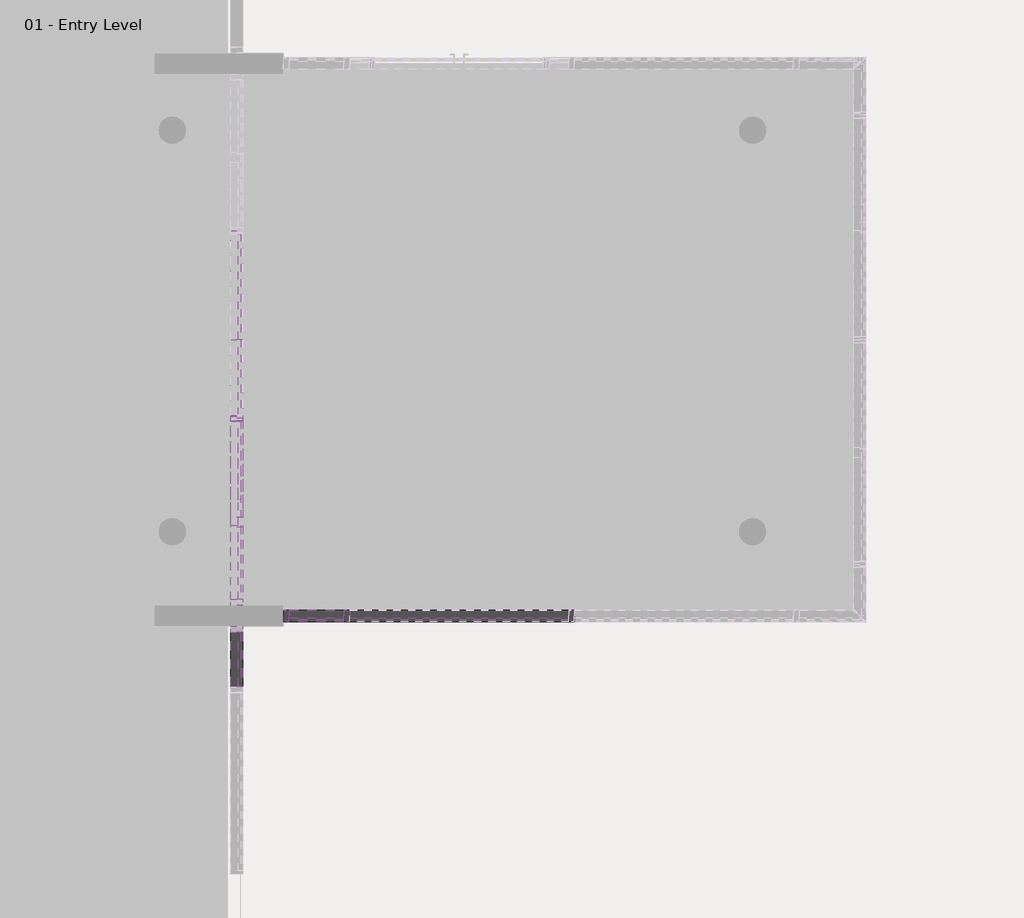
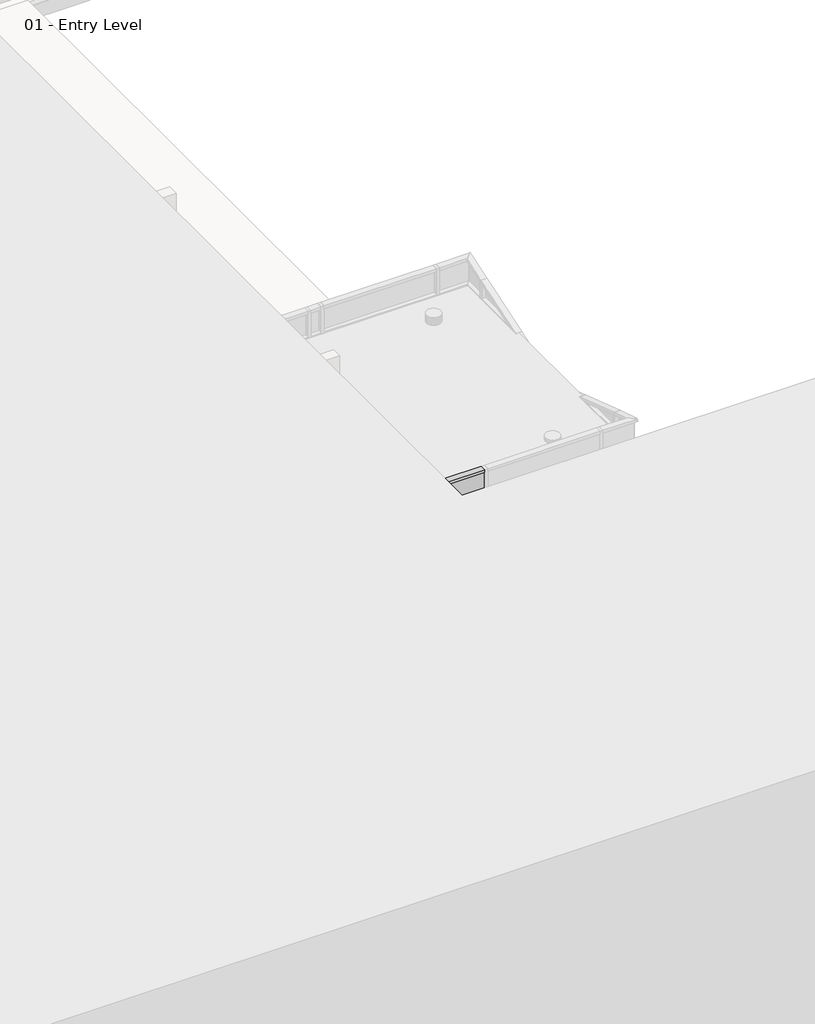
# One storey, part 13 of 35: 83 members, 41 plates.
"""IFC4 building model written with IfcOpenShell, lengths in millimetres."""

from ifc_helpers import new_model, si_unit, origin, place, context, project, spatial, transform, mapped, element, save
from components import member_2b49869a, member_75074519, member_4f18b2ac, member_7a85b04f, member_29dce480, member_6e77e263, member_47bfaf8a, member_b2bde9e6, member_89bfb2f9, member_5aa65f11, member_b5354135, member_fbc627c7, member_27fd6fac, member_2603a644, member_ab5e8816, member_97c9a22f, member_dc06a31d, member_4c11d242, system_panel_glazed_f46199af, system_panel_glazed_1b9d6098, system_panel_glazed_a2373be0, system_panel_glazed_70da479d, system_panel_glazed_99a26212, system_panel_glazed_a675a60c, system_panel_glazed_1068a10c, system_panel_glazed_a178916c, system_panel_glazed_0805a858, system_panel_glazed_439dd39a, system_panel_glazed_10735cc6, system_panel_glazed_6a6e56af, system_panel_glazed_a1864e1b

model = new_model("IFC4")

# Units and contexts
model_context = context("Model", 3, world=origin())
ifc_project = project(units=[si_unit("LENGTHUNIT", "METRE", prefix="MILLI")], contexts=[model_context])

# Site, building, storey
site = spatial("IfcSite", under=ifc_project)
building = spatial("IfcBuilding", under=site)
storey = spatial("IfcBuildingStorey", under=building, Name="01 - Entry Level", Elevation=0.0)

# Members
placement = place(None, origin())
member_shape = member_2b49869a(model_context)
element("IfcMember", 1, ObjectType="Rectangular Mullion : 2.5\" x 5\" rectangular", at=placement, inside=storey, context=model_context, shape_type="MappedRepresentation", body=[
    mapped(member_shape, transform((17184.0207476, 18697.5, 9753.6), x_axis=(0.0, 1.0, 0.0), y_axis=(1.0, 0.0, 0.0), z_axis=(0.0, 0.0, -1.0))),
])
member_2_shape = member_75074519(model_context)
element("IfcMember", 2, ObjectType="Rectangular Mullion : 2.5\" x 5\" rectangular", at=placement, inside=storey, context=model_context, shape_type="MappedRepresentation", body=[
    mapped(member_2_shape, transform((17184.0207476, 16665.5, 10972.8), x_axis=(0.0, -1.0, 0.0), y_axis=(1.0, 0.0, 0.0), z_axis=(0.0, 0.0, 1.0))),
])
element("IfcMember", 3, ObjectType="Rectangular Mullion : 2.5\" x 5\" rectangular", at=placement, inside=storey, context=model_context, shape_type="MappedRepresentation", body=[
    mapped(member_2_shape, transform((17184.0207476, 16436.9, 9753.6), x_axis=(0.0, 1.0, 0.0), y_axis=(1.0, 0.0, 0.0), z_axis=(0.0, 0.0, -1.0))),
])
member_3_shape = member_4f18b2ac(model_context)
element("IfcMember", 4, ObjectType="Rectangular Mullion : 2.5\" x 5\" rectangular", at=placement, inside=storey, context=model_context, shape_type="MappedRepresentation", body=[
    mapped(member_3_shape, transform((17184.0207476, 18665.75, 10972.8), x_axis=(0.0, 0.0, 1.0), y_axis=(1.0, 0.0, 0.0), z_axis=(0.0, 1.0, 0.0))),
])
member_4_shape = member_7a85b04f(model_context)
element("IfcMember", 5, ObjectType="Rectangular Mullion : 2.5\" x 5\" rectangular", at=placement, inside=storey, context=model_context, shape_type="MappedRepresentation", body=[
    mapped(member_4_shape, transform((17184.0207476, 18665.75, 8534.4), x_axis=(0.0, 0.0, 1.0), y_axis=(1.0, 0.0, 0.0), z_axis=(0.0, 1.0, 0.0))),
])
element("IfcMember", 6, ObjectType="Rectangular Mullion : 2.5\" x 5\" rectangular", at=placement, inside=storey, context=model_context, shape_type="MappedRepresentation", body=[
    mapped(member_4_shape, transform((17184.0207476, 18665.75, 9753.6), x_axis=(0.0, 0.0, 1.0), y_axis=(1.0, 0.0, 0.0), z_axis=(0.0, 1.0, 0.0))),
])
element("IfcMember", 7, ObjectType="Rectangular Mullion : 2.5\" x 5\" rectangular", at=placement, inside=storey, context=model_context, shape_type="MappedRepresentation", body=[
    mapped(member_shape, transform((17184.0207476, 18697.5, 7315.2), x_axis=(0.0, 1.0, 0.0), y_axis=(1.0, 0.0, 0.0), z_axis=(0.0, 0.0, -1.0))),
])
element("IfcMember", 8, ObjectType="Rectangular Mullion : 2.5\" x 5\" rectangular", at=placement, inside=storey, context=model_context, shape_type="MappedRepresentation", body=[
    mapped(member_shape, transform((17184.0207476, 18697.5, 8534.4), x_axis=(0.0, 1.0, 0.0), y_axis=(1.0, 0.0, 0.0), z_axis=(0.0, 0.0, -1.0))),
])
element("IfcMember", 9, ObjectType="Rectangular Mullion : 2.5\" x 5\" rectangular", at=placement, inside=storey, context=model_context, shape_type="MappedRepresentation", body=[
    mapped(member_2_shape, transform((17184.0207476, 16436.9, 1219.2), x_axis=(0.0, 1.0, 0.0), y_axis=(1.0, 0.0, 0.0), z_axis=(0.0, 0.0, -1.0))),
])
element("IfcMember", 10, ObjectType="Rectangular Mullion : 2.5\" x 5\" rectangular", at=placement, inside=storey, context=model_context, shape_type="MappedRepresentation", body=[
    mapped(member_2_shape, transform((17184.0207476, 16436.9, 2438.4), x_axis=(0.0, 1.0, 0.0), y_axis=(1.0, 0.0, 0.0), z_axis=(0.0, 0.0, -1.0))),
])
element("IfcMember", 11, ObjectType="Rectangular Mullion : 2.5\" x 5\" rectangular", at=placement, inside=storey, context=model_context, shape_type="MappedRepresentation", body=[
    mapped(member_2_shape, transform((17184.0207476, 16436.9, 3657.6), x_axis=(0.0, 1.0, 0.0), y_axis=(1.0, 0.0, 0.0), z_axis=(0.0, 0.0, -1.0))),
])
element("IfcMember", 12, ObjectType="Rectangular Mullion : 2.5\" x 5\" rectangular", at=placement, inside=storey, context=model_context, shape_type="MappedRepresentation", body=[
    mapped(member_2_shape, transform((17184.0207476, 16436.9, 4876.8), x_axis=(0.0, 1.0, 0.0), y_axis=(1.0, 0.0, 0.0), z_axis=(0.0, 0.0, -1.0))),
])
element("IfcMember", 13, ObjectType="Rectangular Mullion : 2.5\" x 5\" rectangular", at=placement, inside=storey, context=model_context, shape_type="MappedRepresentation", body=[
    mapped(member_2_shape, transform((17184.0207476, 16436.9, 6096.0), x_axis=(0.0, 1.0, 0.0), y_axis=(1.0, 0.0, 0.0), z_axis=(0.0, 0.0, -1.0))),
])
element("IfcMember", 14, ObjectType="Rectangular Mullion : 2.5\" x 5\" rectangular", at=placement, inside=storey, context=model_context, shape_type="MappedRepresentation", body=[
    mapped(member_2_shape, transform((17184.0207476, 16436.9, 7315.2), x_axis=(0.0, 1.0, 0.0), y_axis=(1.0, 0.0, 0.0), z_axis=(0.0, 0.0, -1.0))),
])
element("IfcMember", 15, ObjectType="Rectangular Mullion : 2.5\" x 5\" rectangular", at=placement, inside=storey, context=model_context, shape_type="MappedRepresentation", body=[
    mapped(member_2_shape, transform((17184.0207476, 16436.9, 8534.4), x_axis=(0.0, 1.0, 0.0), y_axis=(1.0, 0.0, 0.0), z_axis=(0.0, 0.0, -1.0))),
])
element("IfcMember", 16, ObjectType="Rectangular Mullion : 2.5\" x 5\" rectangular", at=placement, inside=storey, context=model_context, shape_type="MappedRepresentation", body=[
    mapped(member_2_shape, transform((17184.0207476, 16665.5, 9753.6), x_axis=(0.0, -1.0, 0.0), y_axis=(1.0, 0.0, 0.0), z_axis=(0.0, 0.0, 1.0))),
])
member_5_shape = member_29dce480(model_context)
element("IfcMember", 17, ObjectType="Rectangular Mullion : 2.5\" x 5\" rectangular", at=placement, inside=storey, context=model_context, shape_type="MappedRepresentation", body=[
    mapped(member_5_shape, transform((17184.0207476, 16373.4, 1219.2), x_axis=(0.0, 0.0, 1.0), y_axis=(1.0, 0.0, 0.0), z_axis=(0.0, 1.0, 0.0))),
])
element("IfcMember", 18, ObjectType="Rectangular Mullion : 2.5\" x 5\" rectangular", at=placement, inside=storey, context=model_context, shape_type="MappedRepresentation", body=[
    mapped(member_5_shape, transform((17184.0207476, 16373.4, 2438.4), x_axis=(0.0, 0.0, 1.0), y_axis=(1.0, 0.0, 0.0), z_axis=(0.0, 1.0, 0.0))),
])
element("IfcMember", 19, ObjectType="Rectangular Mullion : 2.5\" x 5\" rectangular", at=placement, inside=storey, context=model_context, shape_type="MappedRepresentation", body=[
    mapped(member_5_shape, transform((17184.0207476, 16373.4, 3657.6), x_axis=(0.0, 0.0, 1.0), y_axis=(1.0, 0.0, 0.0), z_axis=(0.0, 1.0, 0.0))),
])
element("IfcMember", 20, ObjectType="Rectangular Mullion : 2.5\" x 5\" rectangular", at=placement, inside=storey, context=model_context, shape_type="MappedRepresentation", body=[
    mapped(member_5_shape, transform((17184.0207476, 16373.4, 4876.8), x_axis=(0.0, 0.0, 1.0), y_axis=(1.0, 0.0, 0.0), z_axis=(0.0, 1.0, 0.0))),
])
element("IfcMember", 21, ObjectType="Rectangular Mullion : 2.5\" x 5\" rectangular", at=placement, inside=storey, context=model_context, shape_type="MappedRepresentation", body=[
    mapped(member_5_shape, transform((17184.0207476, 16373.4, 6096.0), x_axis=(0.0, 0.0, 1.0), y_axis=(1.0, 0.0, 0.0), z_axis=(0.0, 1.0, 0.0))),
])
element("IfcMember", 22, ObjectType="Rectangular Mullion : 2.5\" x 5\" rectangular", at=placement, inside=storey, context=model_context, shape_type="MappedRepresentation", body=[
    mapped(member_5_shape, transform((17184.0207476, 16373.4, 7315.2), x_axis=(0.0, 0.0, 1.0), y_axis=(1.0, 0.0, 0.0), z_axis=(0.0, 1.0, 0.0))),
])
element("IfcMember", 23, ObjectType="Rectangular Mullion : 2.5\" x 5\" rectangular", at=placement, inside=storey, context=model_context, shape_type="MappedRepresentation", body=[
    mapped(member_5_shape, transform((17184.0207476, 16373.4, 8534.4), x_axis=(0.0, 0.0, 1.0), y_axis=(1.0, 0.0, 0.0), z_axis=(0.0, 1.0, 0.0))),
])
element("IfcMember", 24, ObjectType="Rectangular Mullion : 2.5\" x 5\" rectangular", at=placement, inside=storey, context=model_context, shape_type="MappedRepresentation", body=[
    mapped(member_5_shape, transform((17184.0207476, 16373.4, 9753.6), x_axis=(0.0, 0.0, 1.0), y_axis=(1.0, 0.0, 0.0), z_axis=(0.0, 1.0, 0.0))),
])
member_6_shape = member_6e77e263(model_context)
element("IfcMember", 25, ObjectType="Rectangular Mullion : 2.5\" x 5\" rectangular", at=placement, inside=storey, context=model_context, shape_type="MappedRepresentation", body=[
    mapped(member_6_shape, transform((18379.5615197, 16551.2, 0.0), x_axis=(1.0, 0.0, 0.0), y_axis=(0.0, -1.0, 0.0), z_axis=(0.0, 0.0, -1.0))),
])
element("IfcMember", 26, ObjectType="Rectangular Mullion : 2.5\" x 5\" rectangular", at=placement, inside=storey, context=model_context, shape_type="MappedRepresentation", body=[
    mapped(member_6_shape, transform((20817.9615197, 16551.2, 0.0), x_axis=(1.0, 0.0, 0.0), y_axis=(0.0, -1.0, 0.0), z_axis=(0.0, 0.0, -1.0))),
])
element("IfcMember", 27, ObjectType="Rectangular Mullion : 2.5\" x 5\" rectangular", at=placement, inside=storey, context=model_context, shape_type="MappedRepresentation", body=[
    mapped(member_6_shape, transform((18379.5615197, 16551.2, 609.6), x_axis=(1.0, 0.0, 0.0), y_axis=(0.0, -1.0, 0.0), z_axis=(0.0, 0.0, -1.0))),
])
element("IfcMember", 28, ObjectType="Rectangular Mullion : 2.5\" x 5\" rectangular", at=placement, inside=storey, context=model_context, shape_type="MappedRepresentation", body=[
    mapped(member_6_shape, transform((20817.9615197, 16551.2, 609.6), x_axis=(1.0, 0.0, 0.0), y_axis=(0.0, -1.0, 0.0), z_axis=(0.0, 0.0, -1.0))),
])
element("IfcMember", 29, ObjectType="Rectangular Mullion : 2.5\" x 5\" rectangular", at=placement, inside=storey, context=model_context, shape_type="MappedRepresentation", body=[
    mapped(member_6_shape, transform((18379.5615197, 16551.2, 1219.2), x_axis=(1.0, 0.0, 0.0), y_axis=(0.0, -1.0, 0.0), z_axis=(0.0, 0.0, -1.0))),
])
element("IfcMember", 30, ObjectType="Rectangular Mullion : 2.5\" x 5\" rectangular", at=placement, inside=storey, context=model_context, shape_type="MappedRepresentation", body=[
    mapped(member_6_shape, transform((20817.9615197, 16551.2, 1219.2), x_axis=(1.0, 0.0, 0.0), y_axis=(0.0, -1.0, 0.0), z_axis=(0.0, 0.0, -1.0))),
])
element("IfcMember", 31, ObjectType="Rectangular Mullion : 2.5\" x 5\" rectangular", at=placement, inside=storey, context=model_context, shape_type="MappedRepresentation", body=[
    mapped(member_6_shape, transform((18379.5615197, 16551.2, 1828.8), x_axis=(1.0, 0.0, 0.0), y_axis=(0.0, -1.0, 0.0), z_axis=(0.0, 0.0, -1.0))),
])
element("IfcMember", 32, ObjectType="Rectangular Mullion : 2.5\" x 5\" rectangular", at=placement, inside=storey, context=model_context, shape_type="MappedRepresentation", body=[
    mapped(member_6_shape, transform((20817.9615197, 16551.2, 1828.8), x_axis=(1.0, 0.0, 0.0), y_axis=(0.0, -1.0, 0.0), z_axis=(0.0, 0.0, -1.0))),
])
element("IfcMember", 33, ObjectType="Rectangular Mullion : 2.5\" x 5\" rectangular", at=placement, inside=storey, context=model_context, shape_type="MappedRepresentation", body=[
    mapped(member_6_shape, transform((18379.5615197, 16551.2, 2438.4), x_axis=(1.0, 0.0, 0.0), y_axis=(0.0, -1.0, 0.0), z_axis=(0.0, 0.0, -1.0))),
])
element("IfcMember", 34, ObjectType="Rectangular Mullion : 2.5\" x 5\" rectangular", at=placement, inside=storey, context=model_context, shape_type="MappedRepresentation", body=[
    mapped(member_6_shape, transform((20817.9615197, 16551.2, 2438.4), x_axis=(1.0, 0.0, 0.0), y_axis=(0.0, -1.0, 0.0), z_axis=(0.0, 0.0, -1.0))),
])
element("IfcMember", 35, ObjectType="Rectangular Mullion : 2.5\" x 5\" rectangular", at=placement, inside=storey, context=model_context, shape_type="MappedRepresentation", body=[
    mapped(member_6_shape, transform((18379.5615197, 16551.2, 3048.0), x_axis=(1.0, 0.0, 0.0), y_axis=(0.0, -1.0, 0.0), z_axis=(0.0, 0.0, -1.0))),
])
element("IfcMember", 36, ObjectType="Rectangular Mullion : 2.5\" x 5\" rectangular", at=placement, inside=storey, context=model_context, shape_type="MappedRepresentation", body=[
    mapped(member_6_shape, transform((20817.9615197, 16551.2, 3048.0), x_axis=(1.0, 0.0, 0.0), y_axis=(0.0, -1.0, 0.0), z_axis=(0.0, 0.0, -1.0))),
])
element("IfcMember", 37, ObjectType="Rectangular Mullion : 2.5\" x 5\" rectangular", at=placement, inside=storey, context=model_context, shape_type="MappedRepresentation", body=[
    mapped(member_6_shape, transform((18379.5615197, 16551.2, 3657.6), x_axis=(1.0, 0.0, 0.0), y_axis=(0.0, -1.0, 0.0), z_axis=(0.0, 0.0, -1.0))),
])
element("IfcMember", 38, ObjectType="Rectangular Mullion : 2.5\" x 5\" rectangular", at=placement, inside=storey, context=model_context, shape_type="MappedRepresentation", body=[
    mapped(member_6_shape, transform((18379.5615197, 16551.2, 4267.2), x_axis=(1.0, 0.0, 0.0), y_axis=(0.0, -1.0, 0.0), z_axis=(0.0, 0.0, -1.0))),
])
element("IfcMember", 39, ObjectType="Rectangular Mullion : 2.5\" x 5\" rectangular", at=placement, inside=storey, context=model_context, shape_type="MappedRepresentation", body=[
    mapped(member_6_shape, transform((18379.5615197, 16551.2, 4876.8), x_axis=(1.0, 0.0, 0.0), y_axis=(0.0, -1.0, 0.0), z_axis=(0.0, 0.0, -1.0))),
])
element("IfcMember", 40, ObjectType="Rectangular Mullion : 2.5\" x 5\" rectangular", at=placement, inside=storey, context=model_context, shape_type="MappedRepresentation", body=[
    mapped(member_6_shape, transform((18379.5615197, 16551.2, 5486.4), x_axis=(1.0, 0.0, 0.0), y_axis=(0.0, -1.0, 0.0), z_axis=(0.0, 0.0, -1.0))),
])
element("IfcMember", 41, ObjectType="Rectangular Mullion : 2.5\" x 5\" rectangular", at=placement, inside=storey, context=model_context, shape_type="MappedRepresentation", body=[
    mapped(member_6_shape, transform((18379.5615197, 16551.2, 6096.0), x_axis=(1.0, 0.0, 0.0), y_axis=(0.0, -1.0, 0.0), z_axis=(0.0, 0.0, -1.0))),
])
element("IfcMember", 42, ObjectType="Rectangular Mullion : 2.5\" x 5\" rectangular", at=placement, inside=storey, context=model_context, shape_type="MappedRepresentation", body=[
    mapped(member_6_shape, transform((20817.9615197, 16551.2, 3657.6), x_axis=(1.0, 0.0, 0.0), y_axis=(0.0, -1.0, 0.0), z_axis=(0.0, 0.0, -1.0))),
])
element("IfcMember", 43, ObjectType="Rectangular Mullion : 2.5\" x 5\" rectangular", at=placement, inside=storey, context=model_context, shape_type="MappedRepresentation", body=[
    mapped(member_6_shape, transform((20817.9615197, 16551.2, 4267.2), x_axis=(1.0, 0.0, 0.0), y_axis=(0.0, -1.0, 0.0), z_axis=(0.0, 0.0, -1.0))),
])
element("IfcMember", 44, ObjectType="Rectangular Mullion : 2.5\" x 5\" rectangular", at=placement, inside=storey, context=model_context, shape_type="MappedRepresentation", body=[
    mapped(member_6_shape, transform((20817.9615197, 16551.2, 4876.8), x_axis=(1.0, 0.0, 0.0), y_axis=(0.0, -1.0, 0.0), z_axis=(0.0, 0.0, -1.0))),
])
member_7_shape = member_47bfaf8a(model_context)
element("IfcMember", 45, ObjectType="Rectangular Mullion : 2.5\" x 5\" rectangular", at=placement, inside=storey, context=model_context, shape_type="MappedRepresentation", body=[
    mapped(member_7_shape, transform((17688.9115197, 16551.2, 609.6), x_axis=(-1.0, 0.0, 0.0), y_axis=(0.0, -1.0, 0.0), z_axis=(0.0, 0.0, 1.0))),
])
element("IfcMember", 46, ObjectType="Rectangular Mullion : 2.5\" x 5\" rectangular", at=placement, inside=storey, context=model_context, shape_type="MappedRepresentation", body=[
    mapped(member_7_shape, transform((17688.9115197, 16551.2, 1219.2), x_axis=(-1.0, 0.0, 0.0), y_axis=(0.0, -1.0, 0.0), z_axis=(0.0, 0.0, 1.0))),
])
element("IfcMember", 47, ObjectType="Rectangular Mullion : 2.5\" x 5\" rectangular", at=placement, inside=storey, context=model_context, shape_type="MappedRepresentation", body=[
    mapped(member_7_shape, transform((17688.9115197, 16551.2, 1828.8), x_axis=(-1.0, 0.0, 0.0), y_axis=(0.0, -1.0, 0.0), z_axis=(0.0, 0.0, 1.0))),
])
element("IfcMember", 48, ObjectType="Rectangular Mullion : 2.5\" x 5\" rectangular", at=placement, inside=storey, context=model_context, shape_type="MappedRepresentation", body=[
    mapped(member_7_shape, transform((17688.9115197, 16551.2, 2438.4), x_axis=(-1.0, 0.0, 0.0), y_axis=(0.0, -1.0, 0.0), z_axis=(0.0, 0.0, 1.0))),
])
element("IfcMember", 49, ObjectType="Rectangular Mullion : 2.5\" x 5\" rectangular", at=placement, inside=storey, context=model_context, shape_type="MappedRepresentation", body=[
    mapped(member_7_shape, transform((17688.9115197, 16551.2, 3048.0), x_axis=(-1.0, 0.0, 0.0), y_axis=(0.0, -1.0, 0.0), z_axis=(0.0, 0.0, 1.0))),
])
element("IfcMember", 50, ObjectType="Rectangular Mullion : 2.5\" x 5\" rectangular", at=placement, inside=storey, context=model_context, shape_type="MappedRepresentation", body=[
    mapped(member_7_shape, transform((17688.9115197, 16551.2, 3657.6), x_axis=(-1.0, 0.0, 0.0), y_axis=(0.0, -1.0, 0.0), z_axis=(0.0, 0.0, 1.0))),
])
element("IfcMember", 51, ObjectType="Rectangular Mullion : 2.5\" x 5\" rectangular", at=placement, inside=storey, context=model_context, shape_type="MappedRepresentation", body=[
    mapped(member_7_shape, transform((17688.9115197, 16551.2, 4267.2), x_axis=(-1.0, 0.0, 0.0), y_axis=(0.0, -1.0, 0.0), z_axis=(0.0, 0.0, 1.0))),
])
element("IfcMember", 52, ObjectType="Rectangular Mullion : 2.5\" x 5\" rectangular", at=placement, inside=storey, context=model_context, shape_type="MappedRepresentation", body=[
    mapped(member_7_shape, transform((17688.9115197, 16551.2, 4876.8), x_axis=(-1.0, 0.0, 0.0), y_axis=(0.0, -1.0, 0.0), z_axis=(0.0, 0.0, 1.0))),
])
element("IfcMember", 53, ObjectType="Rectangular Mullion : 2.5\" x 5\" rectangular", at=placement, inside=storey, context=model_context, shape_type="MappedRepresentation", body=[
    mapped(member_7_shape, transform((17688.9115197, 16551.2, 5486.4), x_axis=(-1.0, 0.0, 0.0), y_axis=(0.0, -1.0, 0.0), z_axis=(0.0, 0.0, 1.0))),
])
element("IfcMember", 54, ObjectType="Rectangular Mullion : 2.5\" x 5\" rectangular", at=placement, inside=storey, context=model_context, shape_type="MappedRepresentation", body=[
    mapped(member_7_shape, transform((17688.9115197, 16551.2, 6096.0), x_axis=(-1.0, 0.0, 0.0), y_axis=(0.0, -1.0, 0.0), z_axis=(0.0, 0.0, 1.0))),
])
element("IfcMember", 55, ObjectType="Rectangular Mullion : 2.5\" x 5\" rectangular", at=placement, inside=storey, context=model_context, shape_type="MappedRepresentation", body=[
    mapped(member_7_shape, transform((17688.9115197, 16551.2, 6705.6), x_axis=(-1.0, 0.0, 0.0), y_axis=(0.0, -1.0, 0.0), z_axis=(0.0, 0.0, 1.0))),
])
member_8_shape = member_b2bde9e6(model_context)
element("IfcMember", 56, ObjectType="Rectangular Mullion : 2.5\" x 5\" rectangular", at=placement, inside=storey, context=model_context, shape_type="MappedRepresentation", body=[
    mapped(member_8_shape, transform((18411.3115197, 16551.2, 0.0), x_axis=(0.0, 0.0, -1.0), y_axis=(0.0, -1.0, 0.0), z_axis=(-1.0, 0.0, 0.0))),
])
element("IfcMember", 57, ObjectType="Rectangular Mullion : 2.5\" x 5\" rectangular", at=placement, inside=storey, context=model_context, shape_type="MappedRepresentation", body=[
    mapped(member_8_shape, transform((20849.7115197, 16551.2, 0.0), x_axis=(0.0, 0.0, -1.0), y_axis=(0.0, -1.0, 0.0), z_axis=(-1.0, 0.0, 0.0))),
])
member_9_shape = member_89bfb2f9(model_context)
element("IfcMember", 58, ObjectType="Rectangular Mullion : 2.5\" x 5\" rectangular", at=placement, inside=storey, context=model_context, shape_type="MappedRepresentation", body=[
    mapped(member_9_shape, transform((20786.2115197, 16551.2, 609.6), x_axis=(0.0, 0.0, 1.0), y_axis=(0.0, -1.0, 0.0), z_axis=(1.0, 0.0, 0.0))),
])
element("IfcMember", 59, ObjectType="Rectangular Mullion : 2.5\" x 5\" rectangular", at=placement, inside=storey, context=model_context, shape_type="MappedRepresentation", body=[
    mapped(member_9_shape, transform((20786.2115197, 16551.2, 1219.2), x_axis=(0.0, 0.0, 1.0), y_axis=(0.0, -1.0, 0.0), z_axis=(1.0, 0.0, 0.0))),
])
element("IfcMember", 60, ObjectType="Rectangular Mullion : 2.5\" x 5\" rectangular", at=placement, inside=storey, context=model_context, shape_type="MappedRepresentation", body=[
    mapped(member_9_shape, transform((20786.2115197, 16551.2, 1828.8), x_axis=(0.0, 0.0, 1.0), y_axis=(0.0, -1.0, 0.0), z_axis=(1.0, 0.0, 0.0))),
])
element("IfcMember", 61, ObjectType="Rectangular Mullion : 2.5\" x 5\" rectangular", at=placement, inside=storey, context=model_context, shape_type="MappedRepresentation", body=[
    mapped(member_9_shape, transform((20786.2115197, 16551.2, 2438.4), x_axis=(0.0, 0.0, 1.0), y_axis=(0.0, -1.0, 0.0), z_axis=(1.0, 0.0, 0.0))),
])
element("IfcMember", 62, ObjectType="Rectangular Mullion : 2.5\" x 5\" rectangular", at=placement, inside=storey, context=model_context, shape_type="MappedRepresentation", body=[
    mapped(member_9_shape, transform((20786.2115197, 16551.2, 3048.0), x_axis=(0.0, 0.0, 1.0), y_axis=(0.0, -1.0, 0.0), z_axis=(1.0, 0.0, 0.0))),
])
member_10_shape = member_5aa65f11(model_context)
element("IfcMember", 63, ObjectType="Rectangular Mullion : 2.5\" x 5\" rectangular", at=placement, inside=storey, context=model_context, shape_type="MappedRepresentation", body=[
    mapped(member_10_shape, transform((18347.8115197, 16551.2, 7315.2), x_axis=(0.0, 0.0, 1.0), y_axis=(0.0, -1.0, 0.0), z_axis=(1.0, 0.0, 0.0))),
])
element("IfcMember", 64, ObjectType="Rectangular Mullion : 2.5\" x 5\" rectangular", at=placement, inside=storey, context=model_context, shape_type="MappedRepresentation", body=[
    mapped(member_8_shape, transform((20786.2115197, 16551.2, 7315.2), x_axis=(0.0, 0.0, 1.0), y_axis=(0.0, -1.0, 0.0), z_axis=(1.0, 0.0, 0.0))),
])
member_11_shape = member_b5354135(model_context)
element("IfcMember", 65, ObjectType="Rectangular Mullion : 2.5\" x 5\" rectangular", at=placement, inside=storey, context=model_context, shape_type="MappedRepresentation", body=[
    mapped(member_11_shape, transform((18347.8115197, 16551.2, 609.6), x_axis=(0.0, 0.0, 1.0), y_axis=(0.0, -1.0, 0.0), z_axis=(1.0, 0.0, 0.0))),
])
element("IfcMember", 66, ObjectType="Rectangular Mullion : 2.5\" x 5\" rectangular", at=placement, inside=storey, context=model_context, shape_type="MappedRepresentation", body=[
    mapped(member_11_shape, transform((18347.8115197, 16551.2, 1219.2), x_axis=(0.0, 0.0, 1.0), y_axis=(0.0, -1.0, 0.0), z_axis=(1.0, 0.0, 0.0))),
])
element("IfcMember", 67, ObjectType="Rectangular Mullion : 2.5\" x 5\" rectangular", at=placement, inside=storey, context=model_context, shape_type="MappedRepresentation", body=[
    mapped(member_11_shape, transform((18347.8115197, 16551.2, 1828.8), x_axis=(0.0, 0.0, 1.0), y_axis=(0.0, -1.0, 0.0), z_axis=(1.0, 0.0, 0.0))),
])
element("IfcMember", 68, ObjectType="Rectangular Mullion : 2.5\" x 5\" rectangular", at=placement, inside=storey, context=model_context, shape_type="MappedRepresentation", body=[
    mapped(member_11_shape, transform((18347.8115197, 16551.2, 2438.4), x_axis=(0.0, 0.0, 1.0), y_axis=(0.0, -1.0, 0.0), z_axis=(1.0, 0.0, 0.0))),
])
element("IfcMember", 69, ObjectType="Rectangular Mullion : 2.5\" x 5\" rectangular", at=placement, inside=storey, context=model_context, shape_type="MappedRepresentation", body=[
    mapped(member_11_shape, transform((18347.8115197, 16551.2, 3048.0), x_axis=(0.0, 0.0, 1.0), y_axis=(0.0, -1.0, 0.0), z_axis=(1.0, 0.0, 0.0))),
])
element("IfcMember", 70, ObjectType="Rectangular Mullion : 2.5\" x 5\" rectangular", at=placement, inside=storey, context=model_context, shape_type="MappedRepresentation", body=[
    mapped(member_11_shape, transform((18347.8115197, 16551.2, 3657.6), x_axis=(0.0, 0.0, 1.0), y_axis=(0.0, -1.0, 0.0), z_axis=(1.0, 0.0, 0.0))),
])
element("IfcMember", 71, ObjectType="Rectangular Mullion : 2.5\" x 5\" rectangular", at=placement, inside=storey, context=model_context, shape_type="MappedRepresentation", body=[
    mapped(member_11_shape, transform((18347.8115197, 16551.2, 4267.2), x_axis=(0.0, 0.0, 1.0), y_axis=(0.0, -1.0, 0.0), z_axis=(1.0, 0.0, 0.0))),
])
element("IfcMember", 72, ObjectType="Rectangular Mullion : 2.5\" x 5\" rectangular", at=placement, inside=storey, context=model_context, shape_type="MappedRepresentation", body=[
    mapped(member_11_shape, transform((18347.8115197, 16551.2, 4876.8), x_axis=(0.0, 0.0, 1.0), y_axis=(0.0, -1.0, 0.0), z_axis=(1.0, 0.0, 0.0))),
])
element("IfcMember", 73, ObjectType="Rectangular Mullion : 2.5\" x 5\" rectangular", at=placement, inside=storey, context=model_context, shape_type="MappedRepresentation", body=[
    mapped(member_11_shape, transform((18347.8115197, 16551.2, 5486.4), x_axis=(0.0, 0.0, 1.0), y_axis=(0.0, -1.0, 0.0), z_axis=(1.0, 0.0, 0.0))),
])
element("IfcMember", 74, ObjectType="Rectangular Mullion : 2.5\" x 5\" rectangular", at=placement, inside=storey, context=model_context, shape_type="MappedRepresentation", body=[
    mapped(member_11_shape, transform((18347.8115197, 16551.2, 6096.0), x_axis=(0.0, 0.0, 1.0), y_axis=(0.0, -1.0, 0.0), z_axis=(1.0, 0.0, 0.0))),
])
element("IfcMember", 75, ObjectType="Rectangular Mullion : 2.5\" x 5\" rectangular", at=placement, inside=storey, context=model_context, shape_type="MappedRepresentation", body=[
    mapped(member_11_shape, transform((18347.8115197, 16551.2, 6705.6), x_axis=(0.0, 0.0, 1.0), y_axis=(0.0, -1.0, 0.0), z_axis=(1.0, 0.0, 0.0))),
])
member_12_shape = member_fbc627c7(model_context)
element("IfcMember", 76, ObjectType="Rectangular Mullion : 2.5\" x 5\" rectangular", at=placement, inside=storey, context=model_context, shape_type="MappedRepresentation", body=[
    mapped(member_12_shape, transform((17184.0207476, 16665.5, 7598.3874103), x_axis=(0.0, -0.3162277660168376, -0.948683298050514), y_axis=(1.0, 0.0, 0.0), z_axis=(0.0, -0.9486832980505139, 0.31622776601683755))),
])
member_13_shape = member_27fd6fac(model_context)
element("IfcMember", 77, ObjectType="Rectangular Mullion : 2.5\" x 5\" rectangular", at=placement, inside=storey, context=model_context, shape_type="MappedRepresentation", body=[
    mapped(member_13_shape, transform((17184.0207476, 19548.4, 6637.4207436), x_axis=(0.0, 0.3162277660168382, -0.9486832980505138), y_axis=(1.0, 0.0, 0.0), z_axis=(0.0, -0.9486832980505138, -0.3162277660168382))),
])
member_14_shape = member_2603a644(model_context)
element("IfcMember", 78, ObjectType="Rectangular Mullion : 2.5\" x 5\" rectangular", at=placement, inside=storey, context=model_context, shape_type="MappedRepresentation", body=[
    mapped(member_14_shape, transform((17184.0207476, 18697.5, 6921.0540769), x_axis=(0.0, -0.31622776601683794, -0.9486832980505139), y_axis=(1.0, 0.0, 0.0), z_axis=(0.0, -0.9486832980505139, 0.31622776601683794))),
])
member_15_shape = member_ab5e8816(model_context)
element("IfcMember", 79, ObjectType="Rectangular Mullion : 2.5\" x 5\" rectangular", at=placement, inside=storey, context=model_context, shape_type="MappedRepresentation", body=[
    mapped(member_15_shape, transform((17184.0207476, 17515.0622308, 7315.2), x_axis=(0.0, -0.3162277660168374, -0.948683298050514), y_axis=(1.0, 0.0, 0.0), z_axis=(0.0, -0.948683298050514, 0.3162277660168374))),
])
member_16_shape = member_97c9a22f(model_context)
element("IfcMember", 80, ObjectType="Rectangular Mullion : 2.5\" x 5\" rectangular", at=placement, inside=storey, context=model_context, shape_type="MappedRepresentation", body=[
    mapped(member_16_shape, transform((17184.0207476, 16665.5, 8534.4), x_axis=(0.0, -1.0, 0.0), y_axis=(1.0, 0.0, 0.0), z_axis=(0.0, 0.0, 1.0))),
])
member_17_shape = member_dc06a31d(model_context)
element("IfcMember", 81, ObjectType="Rectangular Mullion : 2.5\" x 5\" rectangular", at=placement, inside=storey, context=model_context, shape_type="MappedRepresentation", body=[
    mapped(member_17_shape, transform((17184.0207476, 18665.75, 7315.2), x_axis=(0.0, 0.0, 1.0), y_axis=(1.0, 0.0, 0.0), z_axis=(0.0, 1.0, 0.0))),
])
member_18_shape = member_4c11d242(model_context)
element("IfcMember", 82, ObjectType="Rectangular Mullion : 2.5\" x 5\" rectangular", at=placement, inside=storey, context=model_context, shape_type="MappedRepresentation", body=[
    mapped(member_18_shape, transform((17184.0207476, 18697.5, 6921.0540769), x_axis=(0.0, 1.0, 0.0), y_axis=(1.0, 0.0, 0.0), z_axis=(0.0, 0.0, -1.0))),
])
element("IfcMember", 83, ObjectType="Rectangular Mullion : 2.5\" x 5\" rectangular", at=placement, inside=storey, context=model_context, shape_type="MappedRepresentation", body=[
    mapped(member_6_shape, transform((18379.5615197, 16551.2, 6705.6), x_axis=(1.0, 0.0, 0.0), y_axis=(0.0, -1.0, 0.0), z_axis=(0.0, 0.0, -1.0))),
])

# Plates
system_panel_glazed_shape = system_panel_glazed_f46199af(model_context)
element("IfcPlate", 84, ObjectType="System Panel : Glazed", at=placement, inside=storey, context=model_context, shape_type="MappedRepresentation", body=[
    mapped(system_panel_glazed_shape, transform((17184.0207476, 17697.375, 9785.35), x_axis=(0.0, 1.0, 0.0), y_axis=(-1.0, 0.0, 0.0), z_axis=(0.0, 0.0, 1.0))),
])
system_panel_glazed_2_shape = system_panel_glazed_1b9d6098(model_context)
element("IfcPlate", 85, ObjectType="System Panel : Glazed", at=placement, inside=storey, context=model_context, shape_type="MappedRepresentation", body=[
    mapped(system_panel_glazed_2_shape, transform((17184.0207476, 19713.5, 9785.35), x_axis=(0.0, 1.0, 0.0), y_axis=(-1.0, 0.0, 0.0), z_axis=(0.0, 0.0, 1.0))),
])
system_panel_glazed_3_shape = system_panel_glazed_a2373be0(model_context)
element("IfcPlate", 86, ObjectType="System Panel : Glazed", at=placement, inside=storey, context=model_context, shape_type="MappedRepresentation", body=[
    mapped(system_panel_glazed_3_shape, transform((17184.0207476, 17697.375, 8566.15), x_axis=(0.0, 1.0, 0.0), y_axis=(-1.0, 0.0, 0.0), z_axis=(0.0, 0.0, 1.0))),
])
system_panel_glazed_4_shape = system_panel_glazed_70da479d(model_context)
element("IfcPlate", 87, ObjectType="System Panel : Glazed", at=placement, inside=storey, context=model_context, shape_type="MappedRepresentation", body=[
    mapped(system_panel_glazed_4_shape, transform((17184.0207476, 19713.5, 7346.95), x_axis=(0.0, 1.0, 0.0), y_axis=(-1.0, 0.0, 0.0), z_axis=(0.0, 0.0, 1.0))),
])
element("IfcPlate", 88, ObjectType="System Panel : Glazed", at=placement, inside=storey, context=model_context, shape_type="MappedRepresentation", body=[
    mapped(system_panel_glazed_4_shape, transform((17184.0207476, 19713.5, 8566.15), x_axis=(0.0, 1.0, 0.0), y_axis=(-1.0, 0.0, 0.0), z_axis=(0.0, 0.0, 1.0))),
])
system_panel_glazed_5_shape = system_panel_glazed_99a26212(model_context)
element("IfcPlate", 89, ObjectType="System Panel : Glazed", at=placement, inside=storey, context=model_context, shape_type="MappedRepresentation", body=[
    mapped(system_panel_glazed_5_shape, transform((17184.0207476, 16078.125, 63.5), x_axis=(0.0, 1.0, 0.0), y_axis=(-1.0, 0.0, 0.0), z_axis=(0.0, 0.0, 1.0))),
])
element("IfcPlate", 90, ObjectType="System Panel : Glazed", at=placement, inside=storey, context=model_context, shape_type="MappedRepresentation", body=[
    mapped(system_panel_glazed_5_shape, transform((17184.0207476, 16078.125, 9785.35), x_axis=(0.0, 1.0, 0.0), y_axis=(-1.0, 0.0, 0.0), z_axis=(0.0, 0.0, 1.0))),
])
system_panel_glazed_6_shape = system_panel_glazed_a675a60c(model_context)
element("IfcPlate", 91, ObjectType="System Panel : Glazed", at=placement, inside=storey, context=model_context, shape_type="MappedRepresentation", body=[
    mapped(system_panel_glazed_6_shape, transform((17184.0207476, 16078.125, 1250.95), x_axis=(0.0, 1.0, 0.0), y_axis=(-1.0, 0.0, 0.0), z_axis=(0.0, 0.0, 1.0))),
])
element("IfcPlate", 92, ObjectType="System Panel : Glazed", at=placement, inside=storey, context=model_context, shape_type="MappedRepresentation", body=[
    mapped(system_panel_glazed_6_shape, transform((17184.0207476, 16078.125, 2470.15), x_axis=(0.0, 1.0, 0.0), y_axis=(-1.0, 0.0, 0.0), z_axis=(0.0, 0.0, 1.0))),
])
element("IfcPlate", 93, ObjectType="System Panel : Glazed", at=placement, inside=storey, context=model_context, shape_type="MappedRepresentation", body=[
    mapped(system_panel_glazed_6_shape, transform((17184.0207476, 16078.125, 3689.35), x_axis=(0.0, 1.0, 0.0), y_axis=(-1.0, 0.0, 0.0), z_axis=(0.0, 0.0, 1.0))),
])
element("IfcPlate", 94, ObjectType="System Panel : Glazed", at=placement, inside=storey, context=model_context, shape_type="MappedRepresentation", body=[
    mapped(system_panel_glazed_6_shape, transform((17184.0207476, 16078.125, 4908.55), x_axis=(0.0, 1.0, 0.0), y_axis=(-1.0, 0.0, 0.0), z_axis=(0.0, 0.0, 1.0))),
])
element("IfcPlate", 95, ObjectType="System Panel : Glazed", at=placement, inside=storey, context=model_context, shape_type="MappedRepresentation", body=[
    mapped(system_panel_glazed_6_shape, transform((17184.0207476, 16078.125, 6127.75), x_axis=(0.0, 1.0, 0.0), y_axis=(-1.0, 0.0, 0.0), z_axis=(0.0, 0.0, 1.0))),
])
element("IfcPlate", 96, ObjectType="System Panel : Glazed", at=placement, inside=storey, context=model_context, shape_type="MappedRepresentation", body=[
    mapped(system_panel_glazed_6_shape, transform((17184.0207476, 16078.125, 7346.95), x_axis=(0.0, 1.0, 0.0), y_axis=(-1.0, 0.0, 0.0), z_axis=(0.0, 0.0, 1.0))),
])
element("IfcPlate", 97, ObjectType="System Panel : Glazed", at=placement, inside=storey, context=model_context, shape_type="MappedRepresentation", body=[
    mapped(system_panel_glazed_6_shape, transform((17184.0207476, 16078.125, 8566.15), x_axis=(0.0, 1.0, 0.0), y_axis=(-1.0, 0.0, 0.0), z_axis=(0.0, 0.0, 1.0))),
])
system_panel_glazed_7_shape = system_panel_glazed_1068a10c(model_context)
element("IfcPlate", 98, ObjectType="System Panel : Glazed", at=placement, inside=storey, context=model_context, shape_type="MappedRepresentation", body=[
    mapped(system_panel_glazed_7_shape, transform((19598.7615197, 16551.2, 63.5), x_axis=(1.0, 0.0, 0.0), y_axis=(0.0, 1.0, 0.0), z_axis=(0.0, 0.0, 1.0))),
])
element("IfcPlate", 99, ObjectType="System Panel : Glazed", at=placement, inside=storey, context=model_context, shape_type="MappedRepresentation", body=[
    mapped(system_panel_glazed_7_shape, transform((19598.7615197, 16551.2, 6737.35), x_axis=(1.0, 0.0, 0.0), y_axis=(0.0, 1.0, 0.0), z_axis=(0.0, 0.0, 1.0))),
])
system_panel_glazed_8_shape = system_panel_glazed_a178916c(model_context)
element("IfcPlate", 100, ObjectType="System Panel : Glazed", at=placement, inside=storey, context=model_context, shape_type="MappedRepresentation", body=[
    mapped(system_panel_glazed_8_shape, transform((19598.7615197, 16551.2, 641.35), x_axis=(1.0, 0.0, 0.0), y_axis=(0.0, 1.0, 0.0), z_axis=(0.0, 0.0, 1.0))),
])
element("IfcPlate", 101, ObjectType="System Panel : Glazed", at=placement, inside=storey, context=model_context, shape_type="MappedRepresentation", body=[
    mapped(system_panel_glazed_8_shape, transform((19598.7615197, 16551.2, 1250.95), x_axis=(1.0, 0.0, 0.0), y_axis=(0.0, 1.0, 0.0), z_axis=(0.0, 0.0, 1.0))),
])
element("IfcPlate", 102, ObjectType="System Panel : Glazed", at=placement, inside=storey, context=model_context, shape_type="MappedRepresentation", body=[
    mapped(system_panel_glazed_8_shape, transform((19598.7615197, 16551.2, 1860.55), x_axis=(1.0, 0.0, 0.0), y_axis=(0.0, 1.0, 0.0), z_axis=(0.0, 0.0, 1.0))),
])
element("IfcPlate", 103, ObjectType="System Panel : Glazed", at=placement, inside=storey, context=model_context, shape_type="MappedRepresentation", body=[
    mapped(system_panel_glazed_8_shape, transform((19598.7615197, 16551.2, 2470.15), x_axis=(1.0, 0.0, 0.0), y_axis=(0.0, 1.0, 0.0), z_axis=(0.0, 0.0, 1.0))),
])
element("IfcPlate", 104, ObjectType="System Panel : Glazed", at=placement, inside=storey, context=model_context, shape_type="MappedRepresentation", body=[
    mapped(system_panel_glazed_8_shape, transform((19598.7615197, 16551.2, 3079.75), x_axis=(1.0, 0.0, 0.0), y_axis=(0.0, 1.0, 0.0), z_axis=(0.0, 0.0, 1.0))),
])
element("IfcPlate", 105, ObjectType="System Panel : Glazed", at=placement, inside=storey, context=model_context, shape_type="MappedRepresentation", body=[
    mapped(system_panel_glazed_8_shape, transform((19598.7615197, 16551.2, 3689.35), x_axis=(1.0, 0.0, 0.0), y_axis=(0.0, 1.0, 0.0), z_axis=(0.0, 0.0, 1.0))),
])
element("IfcPlate", 106, ObjectType="System Panel : Glazed", at=placement, inside=storey, context=model_context, shape_type="MappedRepresentation", body=[
    mapped(system_panel_glazed_8_shape, transform((19598.7615197, 16551.2, 4298.95), x_axis=(1.0, 0.0, 0.0), y_axis=(0.0, 1.0, 0.0), z_axis=(0.0, 0.0, 1.0))),
])
element("IfcPlate", 107, ObjectType="System Panel : Glazed", at=placement, inside=storey, context=model_context, shape_type="MappedRepresentation", body=[
    mapped(system_panel_glazed_8_shape, transform((19598.7615197, 16551.2, 4908.55), x_axis=(1.0, 0.0, 0.0), y_axis=(0.0, 1.0, 0.0), z_axis=(0.0, 0.0, 1.0))),
])
element("IfcPlate", 108, ObjectType="System Panel : Glazed", at=placement, inside=storey, context=model_context, shape_type="MappedRepresentation", body=[
    mapped(system_panel_glazed_8_shape, transform((19598.7615197, 16551.2, 5518.15), x_axis=(1.0, 0.0, 0.0), y_axis=(0.0, 1.0, 0.0), z_axis=(0.0, 0.0, 1.0))),
])
element("IfcPlate", 109, ObjectType="System Panel : Glazed", at=placement, inside=storey, context=model_context, shape_type="MappedRepresentation", body=[
    mapped(system_panel_glazed_8_shape, transform((19598.7615197, 16551.2, 6127.75), x_axis=(1.0, 0.0, 0.0), y_axis=(0.0, 1.0, 0.0), z_axis=(0.0, 0.0, 1.0))),
])
system_panel_glazed_9_shape = system_panel_glazed_0805a858(model_context)
element("IfcPlate", 110, ObjectType="System Panel : Glazed", at=placement, inside=storey, context=model_context, shape_type="MappedRepresentation", body=[
    mapped(system_panel_glazed_9_shape, transform((18050.1115197, 16551.2, 63.5), x_axis=(1.0, 0.0, 0.0), y_axis=(0.0, 1.0, 0.0), z_axis=(0.0, 0.0, 1.0))),
])
element("IfcPlate", 111, ObjectType="System Panel : Glazed", at=placement, inside=storey, context=model_context, shape_type="MappedRepresentation", body=[
    mapped(system_panel_glazed_9_shape, transform((18050.1115197, 16551.2, 6737.35), x_axis=(1.0, 0.0, 0.0), y_axis=(0.0, 1.0, 0.0), z_axis=(0.0, 0.0, 1.0))),
])
system_panel_glazed_10_shape = system_panel_glazed_439dd39a(model_context)
element("IfcPlate", 112, ObjectType="System Panel : Glazed", at=placement, inside=storey, context=model_context, shape_type="MappedRepresentation", body=[
    mapped(system_panel_glazed_10_shape, transform((18050.1115197, 16551.2, 641.35), x_axis=(1.0, 0.0, 0.0), y_axis=(0.0, 1.0, 0.0), z_axis=(0.0, 0.0, 1.0))),
])
element("IfcPlate", 113, ObjectType="System Panel : Glazed", at=placement, inside=storey, context=model_context, shape_type="MappedRepresentation", body=[
    mapped(system_panel_glazed_10_shape, transform((18050.1115197, 16551.2, 1250.95), x_axis=(1.0, 0.0, 0.0), y_axis=(0.0, 1.0, 0.0), z_axis=(0.0, 0.0, 1.0))),
])
element("IfcPlate", 114, ObjectType="System Panel : Glazed", at=placement, inside=storey, context=model_context, shape_type="MappedRepresentation", body=[
    mapped(system_panel_glazed_10_shape, transform((18050.1115197, 16551.2, 1860.55), x_axis=(1.0, 0.0, 0.0), y_axis=(0.0, 1.0, 0.0), z_axis=(0.0, 0.0, 1.0))),
])
element("IfcPlate", 115, ObjectType="System Panel : Glazed", at=placement, inside=storey, context=model_context, shape_type="MappedRepresentation", body=[
    mapped(system_panel_glazed_10_shape, transform((18050.1115197, 16551.2, 2470.15), x_axis=(1.0, 0.0, 0.0), y_axis=(0.0, 1.0, 0.0), z_axis=(0.0, 0.0, 1.0))),
])
element("IfcPlate", 116, ObjectType="System Panel : Glazed", at=placement, inside=storey, context=model_context, shape_type="MappedRepresentation", body=[
    mapped(system_panel_glazed_10_shape, transform((18050.1115197, 16551.2, 3079.75), x_axis=(1.0, 0.0, 0.0), y_axis=(0.0, 1.0, 0.0), z_axis=(0.0, 0.0, 1.0))),
])
element("IfcPlate", 117, ObjectType="System Panel : Glazed", at=placement, inside=storey, context=model_context, shape_type="MappedRepresentation", body=[
    mapped(system_panel_glazed_10_shape, transform((18050.1115197, 16551.2, 3689.35), x_axis=(1.0, 0.0, 0.0), y_axis=(0.0, 1.0, 0.0), z_axis=(0.0, 0.0, 1.0))),
])
element("IfcPlate", 118, ObjectType="System Panel : Glazed", at=placement, inside=storey, context=model_context, shape_type="MappedRepresentation", body=[
    mapped(system_panel_glazed_10_shape, transform((18050.1115197, 16551.2, 4298.95), x_axis=(1.0, 0.0, 0.0), y_axis=(0.0, 1.0, 0.0), z_axis=(0.0, 0.0, 1.0))),
])
element("IfcPlate", 119, ObjectType="System Panel : Glazed", at=placement, inside=storey, context=model_context, shape_type="MappedRepresentation", body=[
    mapped(system_panel_glazed_10_shape, transform((18050.1115197, 16551.2, 4908.55), x_axis=(1.0, 0.0, 0.0), y_axis=(0.0, 1.0, 0.0), z_axis=(0.0, 0.0, 1.0))),
])
element("IfcPlate", 120, ObjectType="System Panel : Glazed", at=placement, inside=storey, context=model_context, shape_type="MappedRepresentation", body=[
    mapped(system_panel_glazed_10_shape, transform((18050.1115197, 16551.2, 5518.15), x_axis=(1.0, 0.0, 0.0), y_axis=(0.0, 1.0, 0.0), z_axis=(0.0, 0.0, 1.0))),
])
element("IfcPlate", 121, ObjectType="System Panel : Glazed", at=placement, inside=storey, context=model_context, shape_type="MappedRepresentation", body=[
    mapped(system_panel_glazed_10_shape, transform((18050.1115197, 16551.2, 6127.75), x_axis=(1.0, 0.0, 0.0), y_axis=(0.0, 1.0, 0.0), z_axis=(0.0, 0.0, 1.0))),
])
system_panel_glazed_11_shape = system_panel_glazed_10735cc6(model_context)
element("IfcPlate", 122, ObjectType="System Panel : Glazed", at=placement, inside=storey, context=model_context, shape_type="MappedRepresentation", body=[
    mapped(system_panel_glazed_11_shape, transform((17184.0207476, 18238.4334311, 6998.5722874), x_axis=(0.0, 1.0, 0.0), y_axis=(-1.0, 0.0, 0.0), z_axis=(0.0, 0.0, 1.0))),
])
system_panel_glazed_12_shape = system_panel_glazed_6a6e56af(model_context)
element("IfcPlate", 123, ObjectType="System Panel : Glazed", at=placement, inside=storey, context=model_context, shape_type="MappedRepresentation", body=[
    mapped(system_panel_glazed_12_shape, transform((17184.0207476, 19713.5, 6704.3556207), x_axis=(0.0, 1.0, 0.0), y_axis=(-1.0, 0.0, 0.0), z_axis=(0.0, 0.0, 1.0))),
])
system_panel_glazed_13_shape = system_panel_glazed_a1864e1b(model_context)
element("IfcPlate", 124, ObjectType="System Panel : Glazed", at=placement, inside=storey, context=model_context, shape_type="MappedRepresentation", body=[
    mapped(system_panel_glazed_13_shape, transform((17184.0207476, 17697.375, 7346.95), x_axis=(0.0, 1.0, 0.0), y_axis=(-1.0, 0.0, 0.0), z_axis=(0.0, 0.0, 1.0))),
])

save(model, "model.ifc")
